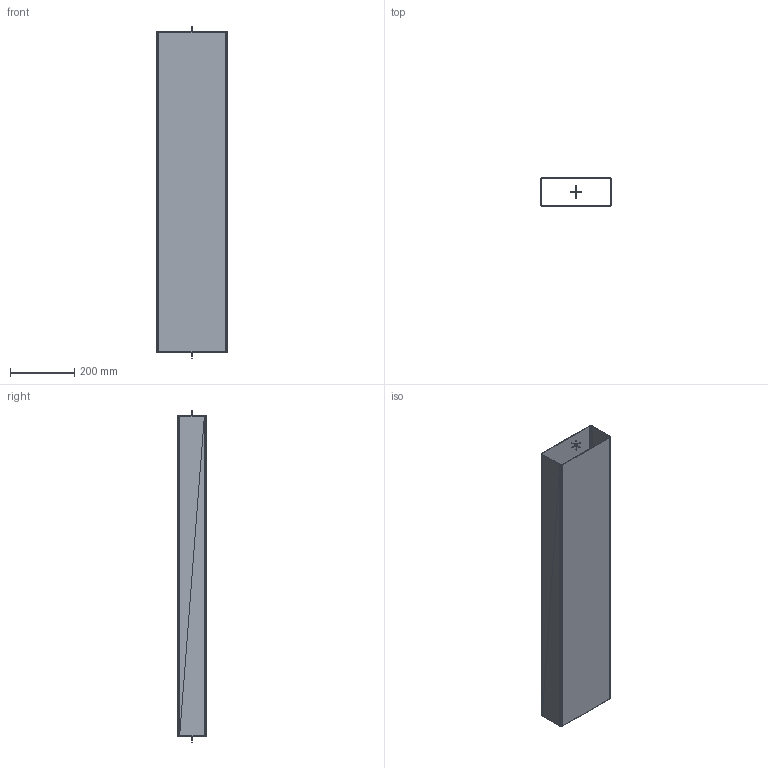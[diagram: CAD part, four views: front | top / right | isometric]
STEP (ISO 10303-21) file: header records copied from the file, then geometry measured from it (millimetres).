
FILE_DESCRIPTION(('FreeCAD Model'),'2;1');
FILE_NAME('Open CASCADE Shape Model','2024-04-12T13:10:00',('Author'),( ''),'Open CASCADE STEP processor 7.6','FreeCAD','Unknown');
FILE_SCHEMA(('AUTOMOTIVE_DESIGN { 1 0 10303 214 1 1 1 1 }'));
Length unit declared in the file: millimetre
Products named in the file (4): Unnamed; Tube_square_002 (Solid); _Cross_b_002 (Solid); _Cross_f_002 (Solid)
Assembly tree (3 placements, depth 2):
  Unnamed
    Tube_square_002 (Solid)
    _Cross_b_002 (Solid)
    _Cross_f_002 (Solid)
Bounding box: 220 x 90 x 1036.42 mm (x, y, z)
Volume: 1013564.4 mm3; surface area: 1212172.4 mm2
Topology: 3 solids, 3 shells, 3521 faces, 5556 edges, 2040 vertices
Faces by surface type: plane 3521
Entity records: 71250 total; most frequent: DIRECTION 12606, CARTESIAN_POINT 11121, ORIENTED_EDGE 11112, EDGE_CURVE 5556, LINE 5556, VECTOR 5556, AXIS2_PLACEMENT_3D 3525, FACE_BOUND 3522
